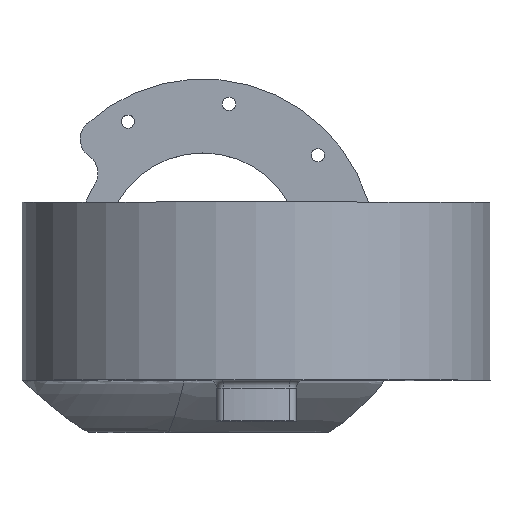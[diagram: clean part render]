
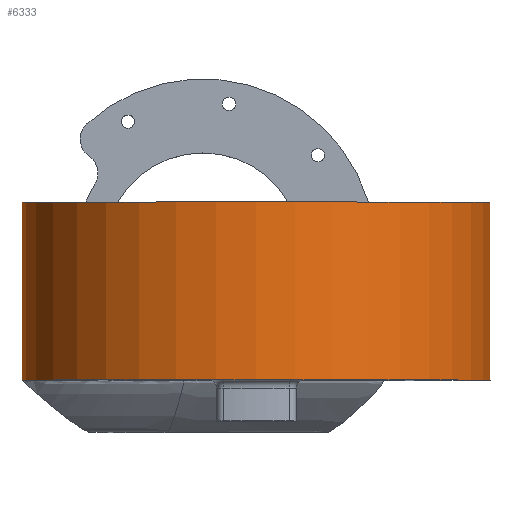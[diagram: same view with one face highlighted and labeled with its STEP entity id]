
A CAD part, top view. The second image highlights one B-rep face of the part: STEP entity #6333.
In plain terms, the highlighted cylindrical face has radius 57 mm (diameter 114 mm), a partial arc.
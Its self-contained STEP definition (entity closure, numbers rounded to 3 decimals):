
#693=CARTESIAN_POINT('',(-200.,16.75,346.5));
#694=DIRECTION('',(0.,-1.,0.));
#695=DIRECTION('',(0.48,0.,-0.877));
#696=AXIS2_PLACEMENT_3D('',#693,#694,#695);
#698=CARTESIAN_POINT('',(-200.,16.75,346.5));
#699=DIRECTION('',(0.,-1.,0.));
#700=DIRECTION('',(0.,0.,1.));
#701=AXIS2_PLACEMENT_3D('',#698,#699,#700);
#1223=CARTESIAN_POINT('',(-257.,-26.5,346.5));
#1238=DIRECTION('',(0.,-1.,0.));
#1239=VECTOR('',#1238,43.25);
#1240=CARTESIAN_POINT('',(-172.659,16.75,296.485));
#1241=LINE('',#1240,#1239);
#1242=DIRECTION('',(0.,1.,0.));
#1243=VECTOR('',#1242,43.25);
#1244=CARTESIAN_POINT('',(-257.,-26.5,346.5));
#1245=LINE('',#1244,#1243);
#1250=CARTESIAN_POINT('',(-200.,-26.5,346.5));
#1251=DIRECTION('',(0.,1.,0.));
#1252=DIRECTION('',(-1.,0.,0.));
#1253=AXIS2_PLACEMENT_3D('',#1250,#1251,#1252);
#1255=CARTESIAN_POINT('',(-200.,-26.5,346.5));
#1256=DIRECTION('',(0.,1.,0.));
#1257=DIRECTION('',(0.,0.,1.));
#1258=AXIS2_PLACEMENT_3D('',#1255,#1256,#1257);
#3458=CARTESIAN_POINT('',(-172.659,16.75,296.485));
#3459=VERTEX_POINT('',#3458);
#3460=CARTESIAN_POINT('',(-200.,16.75,403.5));
#3461=VERTEX_POINT('',#3460);
#3462=CARTESIAN_POINT('',(-257.,16.75,346.5));
#3463=VERTEX_POINT('',#3462);
#3512=VERTEX_POINT('',#1223);
#3513=CARTESIAN_POINT('',(-200.,-26.5,403.5));
#3514=VERTEX_POINT('',#3513);
#3515=CARTESIAN_POINT('',(-172.659,-26.5,296.485));
#3516=VERTEX_POINT('',#3515);
#6317=CARTESIAN_POINT('',(-200.,-1141.618,346.5));
#6318=DIRECTION('',(0.,1.,0.));
#6319=DIRECTION('',(0.,0.,1.));
#6320=AXIS2_PLACEMENT_3D('',#6317,#6318,#6319);
#6321=CYLINDRICAL_SURFACE('',#6320,57.);
#6322=ORIENTED_EDGE('',*,*,#5889,.F.);
#6324=ORIENTED_EDGE('',*,*,#6323,.T.);
#6326=ORIENTED_EDGE('',*,*,#6325,.F.);
#6328=ORIENTED_EDGE('',*,*,#6327,.F.);
#6329=ORIENTED_EDGE('',*,*,#6306,.T.);
#6330=ORIENTED_EDGE('',*,*,#5891,.F.);
#6331=EDGE_LOOP('',(#6322,#6324,#6326,#6328,#6329,#6330));
#6332=FACE_OUTER_BOUND('',#6331,.F.);
#6333=ADVANCED_FACE('',(#6332),#6321,.T.);
#697=CIRCLE('',#696,57.);
#702=CIRCLE('',#701,57.);
#1254=CIRCLE('',#1253,57.);
#1259=CIRCLE('',#1258,57.);
#5889=EDGE_CURVE('',#3459,#3461,#697,.T.);
#5891=EDGE_CURVE('',#3461,#3463,#702,.T.);
#6306=EDGE_CURVE('',#3512,#3463,#1245,.T.);
#6323=EDGE_CURVE('',#3459,#3516,#1241,.T.);
#6325=EDGE_CURVE('',#3514,#3516,#1259,.T.);
#6327=EDGE_CURVE('',#3512,#3514,#1254,.T.);
